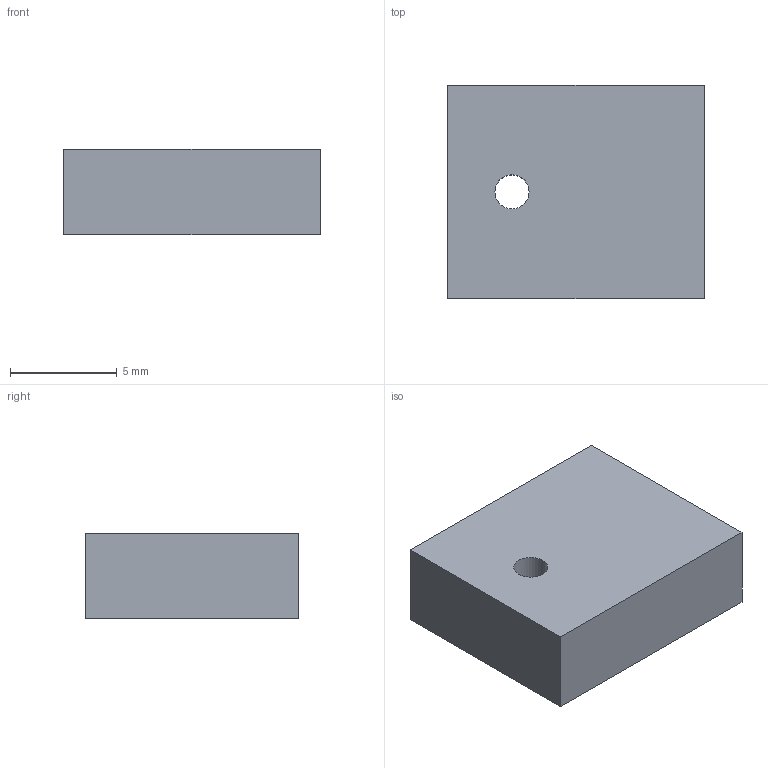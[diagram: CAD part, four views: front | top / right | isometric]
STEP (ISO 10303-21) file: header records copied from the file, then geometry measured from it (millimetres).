
FILE_DESCRIPTION(('Open CASCADE Model'),'2;1');
FILE_NAME('Open CASCADE Shape Model','2000-01-01T00:00:00',('Author'),( 'Open CASCADE'),'Open CASCADE STEP processor 7.9','Open CASCADE 7.9' ,'Unknown');
FILE_SCHEMA(('AUTOMOTIVE_DESIGN { 1 0 10303 214 1 1 1 1 }'));
Length unit declared in the file: millimetre
Products named in the file (1): Open CASCADE STEP translator 7.9 1
Bounding box: 12 x 10 x 4 mm (x, y, z)
Volume: 472 mm3; surface area: 432.1 mm2
Topology: 1 solids, 1 shells, 7 faces, 15 edges, 10 vertices
Faces by surface type: plane 6, cylinder 1
Full cylindrical faces by diameter (mm): 1.6 x1
Entity records: 400 total; most frequent: CARTESIAN_POINT 63, DIRECTION 63, LINE 41, VECTOR 41, ORIENTED_EDGE 30, PCURVE 30, DEFINITIONAL_REPRESENTATION 30, EDGE_CURVE 15
